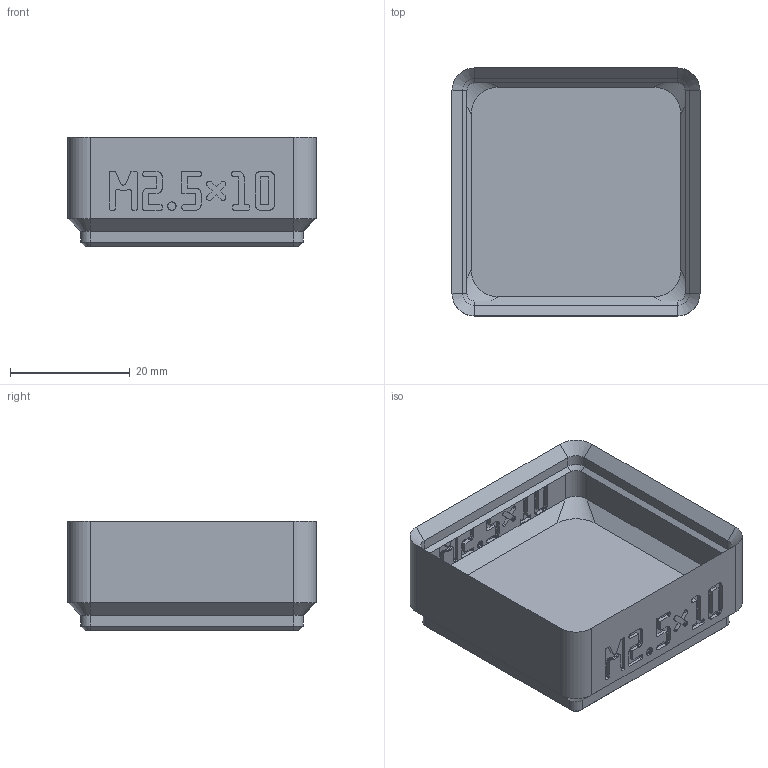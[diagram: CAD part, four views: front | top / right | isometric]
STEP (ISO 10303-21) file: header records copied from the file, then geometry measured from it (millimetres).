
FILE_DESCRIPTION(('Open CASCADE Model'),'2;1');
FILE_NAME('bin_m2_5x10','2026-11-16T17:21:45',('Author'),('Open CASCADE' ),'Open CASCADE STEP processor 8.0','build123d','Unknown');
FILE_SCHEMA(('AUTOMOTIVE_DESIGN { 1 0 10303 214 1 1 1 1 }'));
Products named in the file (1): bin_m2_5x10
Bounding box: 41.5 x 41.5 x 18.4 mm (x, y, z)
Volume: 10951.8 mm3; surface area: 8396.5 mm2
Topology: 1 solids, 1 shells, 1361 faces, 3946 edges, 2612 vertices
Faces by surface type: plane 1313, cylinder 24, cone 16, bspline 8
Full cylindrical faces by diameter (mm): 3.2 x4, 6.5 x4
Entity records: 92556 total; most frequent: CARTESIAN_POINT 18588, DIRECTION 11930, LINE 9074, VECTOR 9074, ORIENTED_EDGE 7892, PCURVE 7892, DEFINITIONAL_REPRESENTATION 7892, EDGE_CURVE 3946
